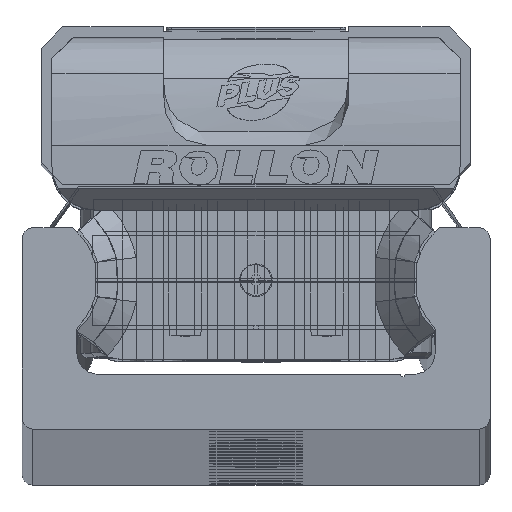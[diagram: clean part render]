
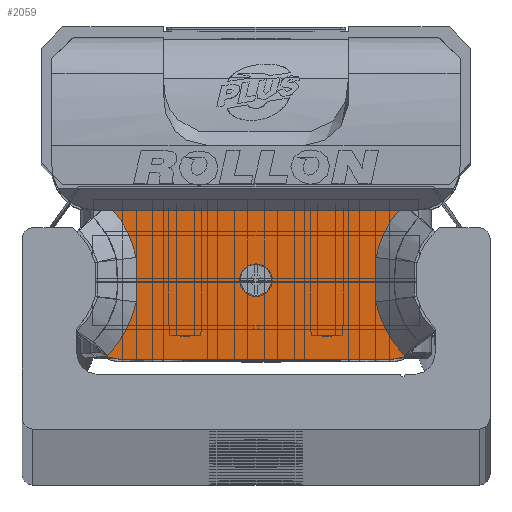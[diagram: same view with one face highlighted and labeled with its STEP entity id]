
A CAD part, top view. The second image highlights one B-rep face of the part: STEP entity #2059.
In plain terms, the highlighted planar face has unit normal (0, 0, 1) as drawn and (0, 0, -1) by its records, which use the part's own axes.
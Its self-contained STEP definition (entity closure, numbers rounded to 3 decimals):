
#2059 = ADVANCED_FACE( '', ( #4421, #4422 ), #4423, .F. );
#4421 = FACE_BOUND( '', #7007, .T. );
#4422 = FACE_OUTER_BOUND( '', #7008, .T. );
#4423 = PLANE( '', #7009 );
#7007 = EDGE_LOOP( '', ( #12580 ) );
#7008 = EDGE_LOOP( '', ( #12581, #12582, #12583, #12584, #12585, #12586, #12587, #12588, #12589, #12590, #12591, #12592 ) );
#7009 = AXIS2_PLACEMENT_3D( '', #12593, #12594, #12595 );
#12580 = ORIENTED_EDGE( '', *, *, #14557, .T. );
#12581 = ORIENTED_EDGE( '', *, *, #14617, .T. );
#12582 = ORIENTED_EDGE( '', *, *, #15684, .F. );
#12583 = ORIENTED_EDGE( '', *, *, #15537, .T. );
#12584 = ORIENTED_EDGE( '', *, *, #15620, .F. );
#12585 = ORIENTED_EDGE( '', *, *, #15046, .T. );
#12586 = ORIENTED_EDGE( '', *, *, #14259, .T. );
#12587 = ORIENTED_EDGE( '', *, *, #15685, .T. );
#12588 = ORIENTED_EDGE( '', *, *, #13550, .T. );
#12589 = ORIENTED_EDGE( '', *, *, #15041, .T. );
#12590 = ORIENTED_EDGE( '', *, *, #15600, .T. );
#12591 = ORIENTED_EDGE( '', *, *, #15467, .T. );
#12592 = ORIENTED_EDGE( '', *, *, #14569, .T. );
#12593 = CARTESIAN_POINT( '', ( 14.9, 7.35, -13.25 ) );
#12594 = DIRECTION( '', ( 0., 0., 1. ) );
#12595 = DIRECTION( '', ( 1., 0., 0. ) );
#13550 = EDGE_CURVE( '', #15975, #15972, #15976, .T. );
#14259 = EDGE_CURVE( '', #17191, #17189, #17192, .T. );
#14557 = EDGE_CURVE( '', #17674, #17674, #17675, .T. );
#14569 = EDGE_CURVE( '', #17692, #17690, #17693, .T. );
#14617 = EDGE_CURVE( '', #17690, #15867, #17765, .T. );
#15041 = EDGE_CURVE( '', #15972, #18387, #18389, .T. );
#15046 = EDGE_CURVE( '', #16663, #17191, #18395, .T. );
#15467 = EDGE_CURVE( '', #18949, #17692, #18950, .T. );
#15537 = EDGE_CURVE( '', #19035, #19033, #19036, .T. );
#15600 = EDGE_CURVE( '', #18387, #18949, #19107, .T. );
#15620 = EDGE_CURVE( '', #16663, #19033, #19130, .T. );
#15684 = EDGE_CURVE( '', #19035, #15867, #19199, .T. );
#15685 = EDGE_CURVE( '', #17189, #15975, #19200, .T. );
#15867 = VERTEX_POINT( '', #19394 );
#15972 = VERTEX_POINT( '', #19536 );
#15975 = VERTEX_POINT( '', #19542 );
#15976 = B_SPLINE_CURVE_WITH_KNOTS( '', 2, ( #19543, #19544, #19545, #19546, #19547 ), .UNSPECIFIED., .F., .F., ( 3, 2, 3 ), ( 0., 0.5, 0.868 ), .UNSPECIFIED. );
#16663 = VERTEX_POINT( '', #20463 );
#17189 = VERTEX_POINT( '', #21171 );
#17191 = VERTEX_POINT( '', #21174 );
#17192 = B_SPLINE_CURVE_WITH_KNOTS( '', 2, ( #21175, #21176, #21177, #21178, #21179 ), .UNSPECIFIED., .F., .F., ( 3, 2, 3 ), ( 0., 0.5, 1. ), .UNSPECIFIED. );
#17674 = VERTEX_POINT( '', #21812 );
#17675 = CIRCLE( '', #21813, 1.5 );
#17690 = VERTEX_POINT( '', #21828 );
#17692 = VERTEX_POINT( '', #21831 );
#17693 = B_SPLINE_CURVE_WITH_KNOTS( '', 2, ( #21832, #21833, #21834, #21835, #21836 ), .UNSPECIFIED., .F., .F., ( 3, 2, 3 ), ( 0., 0.5, 1. ), .UNSPECIFIED. );
#17765 = B_SPLINE_CURVE_WITH_KNOTS( '', 1, ( #21929, #21930 ), .UNSPECIFIED., .F., .F., ( 2, 2 ), ( 0., 1. ), .UNSPECIFIED. );
#18387 = VERTEX_POINT( '', #22893 );
#18389 = LINE( '', #22898, #22899 );
#18395 = B_SPLINE_CURVE_WITH_KNOTS( '', 1, ( #22909, #22910 ), .UNSPECIFIED., .F., .F., ( 2, 2 ), ( 0., 1. ), .UNSPECIFIED. );
#18949 = VERTEX_POINT( '', #23746 );
#18950 = B_SPLINE_CURVE_WITH_KNOTS( '', 2, ( #23747, #23748, #23749 ), .UNSPECIFIED., .F., .F., ( 3, 3 ), ( 0., 1. ), .UNSPECIFIED. );
#19033 = VERTEX_POINT( '', #23857 );
#19035 = VERTEX_POINT( '', #23860 );
#19036 = LINE( '', #23861, #23862 );
#19107 = B_SPLINE_CURVE_WITH_KNOTS( '', 2, ( #23951, #23952, #23953, #23954, #23955 ), .UNSPECIFIED., .F., .F., ( 3, 2, 3 ), ( 0.133, 0.5, 1. ), .UNSPECIFIED. );
#19130 = CIRCLE( '', #23981, 2.5 );
#19199 = CIRCLE( '', #24062, 2.5 );
#19200 = B_SPLINE_CURVE_WITH_KNOTS( '', 2, ( #24063, #24064, #24065 ), .UNSPECIFIED., .F., .F., ( 3, 3 ), ( 0., 1. ), .UNSPECIFIED. );
#19394 = CARTESIAN_POINT( '', ( 14.906, -5.717, -13.25 ) );
#19536 = CARTESIAN_POINT( '', ( -13.119, 6.4, -13.25 ) );
#19542 = CARTESIAN_POINT( '', ( -11.012, 2.045, -13.25 ) );
#19543 = CARTESIAN_POINT( '', ( -11.012, 2.045, -13.25 ) );
#19544 = CARTESIAN_POINT( '', ( -11.302, 3.432, -13.25 ) );
#19545 = CARTESIAN_POINT( '', ( -11.967, 4.685, -13.25 ) );
#19546 = CARTESIAN_POINT( '', ( -12.456, 5.606, -13.25 ) );
#19547 = CARTESIAN_POINT( '', ( -13.119, 6.4, -13.25 ) );
#20463 = CARTESIAN_POINT( '', ( -14.904, -5.718, -13.25 ) );
#21171 = CARTESIAN_POINT( '', ( -11.012, -2.045, -13.25 ) );
#21174 = CARTESIAN_POINT( '', ( -13.628, -6.965, -13.25 ) );
#21175 = CARTESIAN_POINT( '', ( -13.628, -6.965, -13.25 ) );
#21176 = CARTESIAN_POINT( '', ( -12.638, -5.946, -13.25 ) );
#21177 = CARTESIAN_POINT( '', ( -11.97, -4.691, -13.25 ) );
#21178 = CARTESIAN_POINT( '', ( -11.303, -3.437, -13.25 ) );
#21179 = CARTESIAN_POINT( '', ( -11.012, -2.045, -13.25 ) );
#21812 = CARTESIAN_POINT( '', ( 1.5, -0.05, -13.25 ) );
#21813 = AXIS2_PLACEMENT_3D( '', #25797, #25798, #25799 );
#21828 = CARTESIAN_POINT( '', ( 13.628, -6.965, -13.25 ) );
#21831 = CARTESIAN_POINT( '', ( 11.012, -2.045, -13.25 ) );
#21832 = CARTESIAN_POINT( '', ( 11.012, -2.045, -13.25 ) );
#21833 = CARTESIAN_POINT( '', ( 11.301, -3.43, -13.25 ) );
#21834 = CARTESIAN_POINT( '', ( 11.972, -4.69, -13.25 ) );
#21835 = CARTESIAN_POINT( '', ( 12.642, -5.95, -13.25 ) );
#21836 = CARTESIAN_POINT( '', ( 13.628, -6.965, -13.25 ) );
#21929 = CARTESIAN_POINT( '', ( 13.628, -6.965, -13.25 ) );
#21930 = CARTESIAN_POINT( '', ( 14.9, -5.728, -13.25 ) );
#22893 = CARTESIAN_POINT( '', ( 13.12, 6.4, -13.25 ) );
#22898 = CARTESIAN_POINT( '', ( 14.9, 6.4, -13.25 ) );
#22899 = VECTOR( '', #26451, 1000. );
#22909 = CARTESIAN_POINT( '', ( -14.915, -5.713, -13.25 ) );
#22910 = CARTESIAN_POINT( '', ( -13.628, -6.965, -13.25 ) );
#23746 = CARTESIAN_POINT( '', ( 11.012, 2.045, -13.25 ) );
#23747 = CARTESIAN_POINT( '', ( 11.012, 2.045, -13.25 ) );
#23748 = CARTESIAN_POINT( '', ( 10.888, 0., -13.25 ) );
#23749 = CARTESIAN_POINT( '', ( 11.012, -2.045, -13.25 ) );
#23857 = CARTESIAN_POINT( '', ( -12.58, -7.3, -13.25 ) );
#23860 = CARTESIAN_POINT( '', ( 12.58, -7.3, -13.25 ) );
#23861 = CARTESIAN_POINT( '', ( 12.58, -7.3, -13.25 ) );
#23862 = VECTOR( '', #26967, 1000. );
#23951 = CARTESIAN_POINT( '', ( 13.119, 6.4, -13.25 ) );
#23952 = CARTESIAN_POINT( '', ( 12.459, 5.608, -13.25 ) );
#23953 = CARTESIAN_POINT( '', ( 11.968, 4.684, -13.25 ) );
#23954 = CARTESIAN_POINT( '', ( 11.301, 3.427, -13.25 ) );
#23955 = CARTESIAN_POINT( '', ( 11.012, 2.045, -13.25 ) );
#23981 = AXIS2_PLACEMENT_3D( '', #27058, #27059, #27060 );
#24062 = AXIS2_PLACEMENT_3D( '', #27109, #27110, #27111 );
#24063 = CARTESIAN_POINT( '', ( -11.012, -2.045, -13.25 ) );
#24064 = CARTESIAN_POINT( '', ( -10.888, 0., -13.25 ) );
#24065 = CARTESIAN_POINT( '', ( -11.012, 2.045, -13.25 ) );
#25797 = CARTESIAN_POINT( '', ( 0., -0.05, -13.25 ) );
#25798 = DIRECTION( '', ( 0., 0., 1. ) );
#25799 = DIRECTION( '', ( 1., 0., 0. ) );
#26451 = DIRECTION( '', ( 1., 0., 0. ) );
#26967 = DIRECTION( '', ( -1., 0., 0. ) );
#27058 = CARTESIAN_POINT( '', ( -12.58, -4.8, -13.25 ) );
#27059 = DIRECTION( '', ( 0., 0., 1. ) );
#27060 = DIRECTION( '', ( 1., 0., 0. ) );
#27109 = CARTESIAN_POINT( '', ( 12.58, -4.8, -13.25 ) );
#27110 = DIRECTION( '', ( 0., 0., 1. ) );
#27111 = DIRECTION( '', ( 1., 0., 0. ) );
